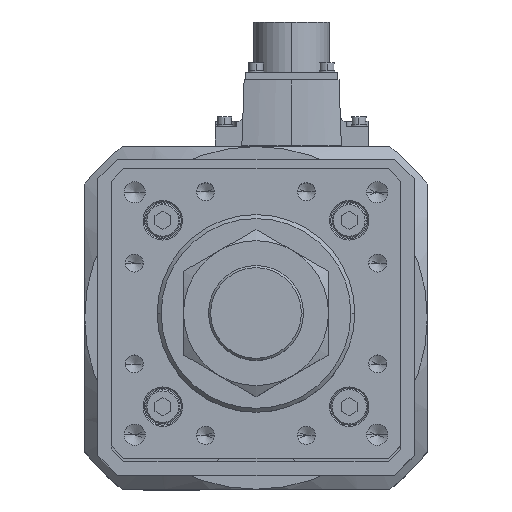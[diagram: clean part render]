
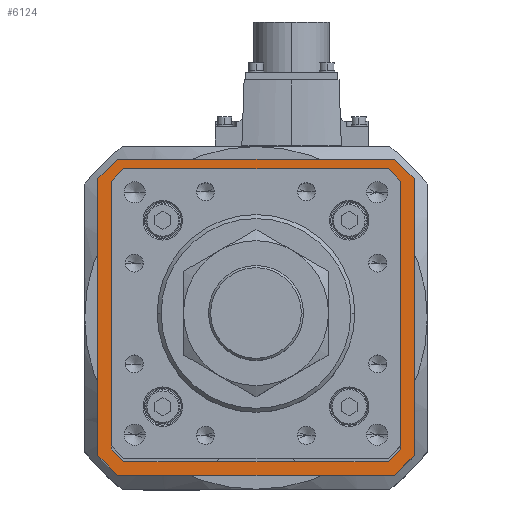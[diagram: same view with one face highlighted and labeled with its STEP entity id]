
A CAD part, top view. The second image highlights one B-rep face of the part: STEP entity #6124.
In plain terms, the highlighted planar face has unit normal (0, 0, 1).
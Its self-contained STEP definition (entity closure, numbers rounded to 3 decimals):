
#73 = VECTOR ( 'NONE', #11381, 1000. ) ;
#137 = VERTEX_POINT ( 'NONE', #11833 ) ;
#246 = VERTEX_POINT ( 'NONE', #1940 ) ;
#569 = CARTESIAN_POINT ( 'NONE',  ( 52.5, -60., -119. ) ) ;
#1577 = DIRECTION ( 'NONE',  ( 0., 1., 0. ) ) ;
#1910 = VECTOR ( 'NONE', #22571, 1000. ) ;
#1936 = LINE ( 'NONE', #26551, #23276 ) ;
#1940 = CARTESIAN_POINT ( 'NONE',  ( 52.5, -60., -119. ) ) ;
#1944 = CARTESIAN_POINT ( 'NONE',  ( -53.5, -49.593, -119. ) ) ;
#2326 = EDGE_LOOP ( 'NONE', ( #16686, #34160, #18237, #15082, #6923, #24517, #31672, #13262 ) ) ;
#2516 = VECTOR ( 'NONE', #35183, 1000. ) ;
#2626 = CARTESIAN_POINT ( 'NONE',  ( 52.5, 60., -119. ) ) ;
#2676 = LINE ( 'NONE', #30370, #29446 ) ;
#2800 = VERTEX_POINT ( 'NONE', #2626 ) ;
#2866 = VERTEX_POINT ( 'NONE', #3163 ) ;
#3163 = CARTESIAN_POINT ( 'NONE',  ( -52.5, -60., -119. ) ) ;
#4200 = CARTESIAN_POINT ( 'NONE',  ( -53.5, 49.593, -119. ) ) ;
#5044 = EDGE_CURVE ( 'NONE', #15110, #33339, #2676, .T. ) ;
#5447 = VECTOR ( 'NONE', #6561, 1000. ) ;
#5644 = ORIENTED_EDGE ( 'NONE', *, *, #18032, .T. ) ;
#6124 = ADVANCED_FACE ( 'NONE', ( #31675, #35744 ), #21736, .T. ) ;
#6411 = EDGE_CURVE ( 'NONE', #2800, #22814, #21638, .T. ) ;
#6561 = DIRECTION ( 'NONE',  ( 0., -1., 0. ) ) ;
#6923 = ORIENTED_EDGE ( 'NONE', *, *, #9595, .F. ) ;
#7370 = CARTESIAN_POINT ( 'NONE',  ( -60., 52.5, -119. ) ) ;
#7481 = EDGE_CURVE ( 'NONE', #37366, #28548, #12009, .T. ) ;
#7480 = CARTESIAN_POINT ( 'NONE',  ( 49.593, 53.5, -119. ) ) ;
#7581 = VERTEX_POINT ( 'NONE', #1944 ) ;
#7858 = CARTESIAN_POINT ( 'NONE',  ( -60., -52.5, -119. ) ) ;
#8216 = LINE ( 'NONE', #25607, #73 ) ;
#8298 = ORIENTED_EDGE ( 'NONE', *, *, #24531, .T. ) ;
#8341 = VERTEX_POINT ( 'NONE', #31655 ) ;
#8390 = CARTESIAN_POINT ( 'NONE',  ( 49.8, 53.5, -119. ) ) ;
#8414 = VECTOR ( 'NONE', #26851, 1000. ) ;
#8434 = EDGE_CURVE ( 'NONE', #35570, #11417, #1936, .T. ) ;
#9257 = CARTESIAN_POINT ( 'NONE',  ( 60., 52.5, -119. ) ) ;
#9595 = EDGE_CURVE ( 'NONE', #246, #2866, #25465, .T. ) ;
#10909 = VECTOR ( 'NONE', #31725, 1000. ) ;
#11049 = EDGE_CURVE ( 'NONE', #8341, #2800, #24062, .T. ) ;
#11381 = DIRECTION ( 'NONE',  ( 0., 1., 0. ) ) ;
#11417 = VERTEX_POINT ( 'NONE', #27617 ) ;
#11619 = EDGE_CURVE ( 'NONE', #2866, #37366, #15563, .T. ) ;
#11712 = ORIENTED_EDGE ( 'NONE', *, *, #23728, .T. ) ;
#11833 = CARTESIAN_POINT ( 'NONE',  ( 60., -52.5, -119. ) ) ;
#11946 = VECTOR ( 'NONE', #31886, 1000. ) ;
#12009 = LINE ( 'NONE', #7370, #20194 ) ;
#12302 = DIRECTION ( 'NONE',  ( 0.707, -0.707, 0. ) ) ;
#12316 = CARTESIAN_POINT ( 'NONE',  ( -49.8, -53.5, -119. ) ) ;
#12862 = DIRECTION ( 'NONE',  ( 0., 0., 1. ) ) ;
#13262 = ORIENTED_EDGE ( 'NONE', *, *, #6411, .F. ) ;
#13803 = DIRECTION ( 'NONE',  ( 0., -1., 0. ) ) ;
#14194 = CARTESIAN_POINT ( 'NONE',  ( 52.5, 60., -119. ) ) ;
#14800 = CARTESIAN_POINT ( 'NONE',  ( -52.5, 60., -119. ) ) ;
#15039 = VECTOR ( 'NONE', #13803, 1000. ) ;
#15082 = ORIENTED_EDGE ( 'NONE', *, *, #11619, .F. ) ;
#15110 = VERTEX_POINT ( 'NONE', #4200 ) ;
#15272 = VECTOR ( 'NONE', #12302, 1000. ) ;
#15367 = CARTESIAN_POINT ( 'NONE',  ( -60., 52.5, -119. ) ) ;
#15466 = CARTESIAN_POINT ( 'NONE',  ( -49.593, 53.5, -119. ) ) ;
#15563 = LINE ( 'NONE', #19614, #33249 ) ;
#16347 = LINE ( 'NONE', #27777, #5447 ) ;
#16566 = CARTESIAN_POINT ( 'NONE',  ( 53.5, 49.593, -119. ) ) ;
#16651 = ORIENTED_EDGE ( 'NONE', *, *, #5044, .T. ) ;
#16686 = ORIENTED_EDGE ( 'NONE', *, *, #11049, .F. ) ;
#16948 = LINE ( 'NONE', #12316, #22374 ) ;
#17041 = DIRECTION ( 'NONE',  ( 1., 0., 0. ) ) ;
#17067 = ORIENTED_EDGE ( 'NONE', *, *, #37085, .T. ) ;
#17071 = LINE ( 'NONE', #14800, #8414 ) ;
#17767 = ORIENTED_EDGE ( 'NONE', *, *, #24379, .T. ) ;
#17787 = CARTESIAN_POINT ( 'NONE',  ( 53.646, 49.446, -119. ) ) ;
#18032 = EDGE_CURVE ( 'NONE', #33339, #30772, #32833, .T. ) ;
#18220 = DIRECTION ( 'NONE',  ( -1., 0., 0. ) ) ;
#18237 = ORIENTED_EDGE ( 'NONE', *, *, #7481, .F. ) ;
#18698 = EDGE_CURVE ( 'NONE', #22814, #137, #16347, .T. ) ;
#19297 = LINE ( 'NONE', #17787, #2516 ) ;
#19614 = CARTESIAN_POINT ( 'NONE',  ( -52.5, -60., -119. ) ) ;
#19663 = VECTOR ( 'NONE', #17041, 1000. ) ;
#19780 = CARTESIAN_POINT ( 'NONE',  ( -53.646, -49.446, -119. ) ) ;
#20164 = LINE ( 'NONE', #34917, #11946 ) ;
#20194 = VECTOR ( 'NONE', #1577, 1000. ) ;
#21096 = DIRECTION ( 'NONE',  ( -1., 0., 0. ) ) ;
#21638 = LINE ( 'NONE', #9257, #15272 ) ;
#21736 = PLANE ( 'NONE',  #31075 ) ;
#22374 = VECTOR ( 'NONE', #21096, 1000. ) ;
#22571 = DIRECTION ( 'NONE',  ( -0.707, 0.707, 0. ) ) ;
#22814 = VERTEX_POINT ( 'NONE', #31697 ) ;
#22834 = CARTESIAN_POINT ( 'NONE',  ( -49.593, -53.5, -119. ) ) ;
#23276 = VECTOR ( 'NONE', #32367, 1000. ) ;
#23446 = EDGE_CURVE ( 'NONE', #137, #246, #20164, .T. ) ;
#23491 = ORIENTED_EDGE ( 'NONE', *, *, #8434, .T. ) ;
#23707 = LINE ( 'NONE', #19780, #1910 ) ;
#23728 = EDGE_CURVE ( 'NONE', #11417, #31491, #16948, .T. ) ;
#24062 = LINE ( 'NONE', #14194, #10909 ) ;
#24124 = VECTOR ( 'NONE', #18220, 1000. ) ;
#24374 = ORIENTED_EDGE ( 'NONE', *, *, #26029, .T. ) ;
#24379 = EDGE_CURVE ( 'NONE', #31866, #35570, #29559, .T. ) ;
#24517 = ORIENTED_EDGE ( 'NONE', *, *, #23446, .F. ) ;
#24531 = EDGE_CURVE ( 'NONE', #7581, #15110, #8216, .T. ) ;
#24673 = CARTESIAN_POINT ( 'NONE',  ( 0., 0., -119. ) ) ;
#25465 = LINE ( 'NONE', #569, #24124 ) ;
#25607 = CARTESIAN_POINT ( 'NONE',  ( -53.5, 49.8, -119. ) ) ;
#26029 = EDGE_CURVE ( 'NONE', #31491, #7581, #23707, .T. ) ;
#26551 = CARTESIAN_POINT ( 'NONE',  ( 49.446, -53.646, -119. ) ) ;
#26851 = DIRECTION ( 'NONE',  ( 0.707, 0.707, 0. ) ) ;
#27580 = DIRECTION ( 'NONE',  ( 1., 0., 0. ) ) ;
#27591 = DIRECTION ( 'NONE',  ( 0.707, 0.707, 0. ) ) ;
#27617 = CARTESIAN_POINT ( 'NONE',  ( 49.593, -53.5, -119. ) ) ;
#27777 = CARTESIAN_POINT ( 'NONE',  ( 60., 52.5, -119. ) ) ;
#28548 = VERTEX_POINT ( 'NONE', #15367 ) ;
#29446 = VECTOR ( 'NONE', #27591, 1000. ) ;
#29559 = LINE ( 'NONE', #31205, #15039 ) ;
#29898 = EDGE_CURVE ( 'NONE', #28548, #8341, #17071, .T. ) ;
#29908 = CARTESIAN_POINT ( 'NONE',  ( 53.5, -49.593, -119. ) ) ;
#30306 = EDGE_LOOP ( 'NONE', ( #5644, #17067, #17767, #23491, #11712, #24374, #8298, #16651 ) ) ;
#30370 = CARTESIAN_POINT ( 'NONE',  ( -49.446, 53.646, -119. ) ) ;
#30772 = VERTEX_POINT ( 'NONE', #7480 ) ;
#31075 = AXIS2_PLACEMENT_3D ( 'NONE', #24673, #12862, #27580 ) ;
#31205 = CARTESIAN_POINT ( 'NONE',  ( 53.5, -49.8, -119. ) ) ;
#31491 = VERTEX_POINT ( 'NONE', #22834 ) ;
#31655 = CARTESIAN_POINT ( 'NONE',  ( -52.5, 60., -119. ) ) ;
#31672 = ORIENTED_EDGE ( 'NONE', *, *, #18698, .F. ) ;
#31675 = FACE_BOUND ( 'NONE', #30306, .T. ) ;
#31697 = CARTESIAN_POINT ( 'NONE',  ( 60., 52.5, -119. ) ) ;
#31725 = DIRECTION ( 'NONE',  ( 1., 0., 0. ) ) ;
#31866 = VERTEX_POINT ( 'NONE', #16566 ) ;
#31886 = DIRECTION ( 'NONE',  ( -0.707, -0.707, 0. ) ) ;
#32367 = DIRECTION ( 'NONE',  ( -0.707, -0.707, 0. ) ) ;
#32833 = LINE ( 'NONE', #8390, #19663 ) ;
#33249 = VECTOR ( 'NONE', #34329, 1000. ) ;
#33339 = VERTEX_POINT ( 'NONE', #15466 ) ;
#34160 = ORIENTED_EDGE ( 'NONE', *, *, #29898, .F. ) ;
#34329 = DIRECTION ( 'NONE',  ( -0.707, 0.707, 0. ) ) ;
#34917 = CARTESIAN_POINT ( 'NONE',  ( 60., -52.5, -119. ) ) ;
#35183 = DIRECTION ( 'NONE',  ( 0.707, -0.707, 0. ) ) ;
#35570 = VERTEX_POINT ( 'NONE', #29908 ) ;
#35744 = FACE_OUTER_BOUND ( 'NONE', #2326, .T. ) ;
#37085 = EDGE_CURVE ( 'NONE', #30772, #31866, #19297, .T. ) ;
#37366 = VERTEX_POINT ( 'NONE', #7858 ) ;
